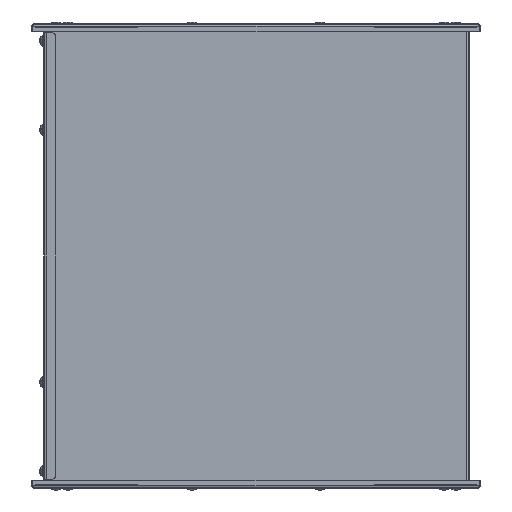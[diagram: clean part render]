
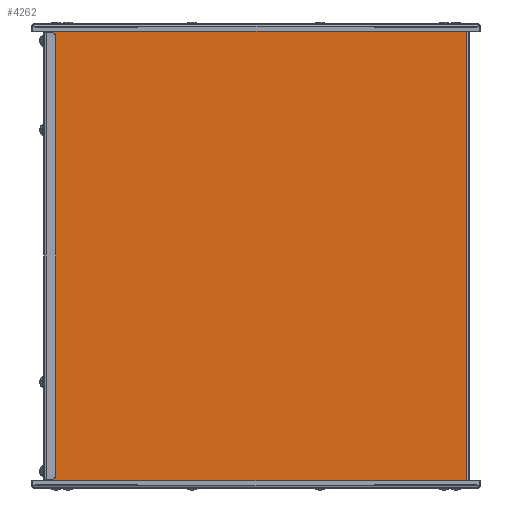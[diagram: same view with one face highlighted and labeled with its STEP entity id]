
A CAD part, left-side view. The second image highlights one B-rep face of the part: STEP entity #4262.
In plain terms, the highlighted planar face has unit normal (-1, 0, 0).
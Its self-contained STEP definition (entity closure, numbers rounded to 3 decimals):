
#1327 = PLANE ( 'NONE',  #6040 ) ;
#1328 = DIRECTION ( 'NONE',  ( 0., -1., 0. ) ) ;
#1425 = DIRECTION ( 'NONE',  ( 1., 0., 0. ) ) ;
#1432 = CARTESIAN_POINT ( 'NONE',  ( -249.8, -159.825, 175. ) ) ;
#4262 = ADVANCED_FACE ( 'NONE', ( #4953 ), #1327, .F. ) ;
#4953 = FACE_OUTER_BOUND ( 'NONE', #7608, .T. ) ;
#6040 = AXIS2_PLACEMENT_3D ( 'NONE', #1432, #1425, #1328 ) ;
#7608 = EDGE_LOOP ( 'NONE', ( #21309, #21310, #21308, #21313 ) ) ;
#10033 = LINE ( 'NONE', #15789, #10036 ) ;
#10036 = VECTOR ( 'NONE', #16144, 1000. ) ;
#10040 = LINE ( 'NONE', #16138, #10047 ) ;
#10046 = LINE ( 'NONE', #16292, #10053 ) ;
#10047 = VECTOR ( 'NONE', #15900, 1000. ) ;
#10050 = LINE ( 'NONE', #16278, #10051 ) ;
#10051 = VECTOR ( 'NONE', #16284, 1000. ) ;
#10053 = VECTOR ( 'NONE', #16298, 1000. ) ;
#11064 = VERTEX_POINT ( 'NONE', #20650 ) ;
#11093 = VERTEX_POINT ( 'NONE', #20687 ) ;
#11094 = VERTEX_POINT ( 'NONE', #20683 ) ;
#11100 = VERTEX_POINT ( 'NONE', #20692 ) ;
#15789 = CARTESIAN_POINT ( 'NONE',  ( -249.8, -158.625, 175. ) ) ;
#15900 = DIRECTION ( 'NONE',  ( 0., -1., 0. ) ) ;
#16138 = CARTESIAN_POINT ( 'NONE',  ( -249.8, 156.304, 2.8 ) ) ;
#16144 = DIRECTION ( 'NONE',  ( 0., 0., -1. ) ) ;
#16278 = CARTESIAN_POINT ( 'NONE',  ( -249.8, 155.175, 348.329 ) ) ;
#16284 = DIRECTION ( 'NONE',  ( 0., 0., -1. ) ) ;
#16292 = CARTESIAN_POINT ( 'NONE',  ( -249.8, -158.625, 347.2 ) ) ;
#16298 = DIRECTION ( 'NONE',  ( 0., 1., 0. ) ) ;
#20115 = EDGE_CURVE ( 'NONE', #11093, #11094, #10033, .T. ) ;
#20123 = EDGE_CURVE ( 'NONE', #11100, #11094, #10040, .T. ) ;
#20126 = EDGE_CURVE ( 'NONE', #11064, #11100, #10050, .T. ) ;
#20127 = EDGE_CURVE ( 'NONE', #11093, #11064, #10046, .T. ) ;
#20650 = CARTESIAN_POINT ( 'NONE',  ( -249.8, 155.175, 347.2 ) ) ;
#20683 = CARTESIAN_POINT ( 'NONE',  ( -249.8, -158.625, 2.8 ) ) ;
#20687 = CARTESIAN_POINT ( 'NONE',  ( -249.8, -158.625, 347.2 ) ) ;
#20692 = CARTESIAN_POINT ( 'NONE',  ( -249.8, 155.175, 2.8 ) ) ;
#21308 = ORIENTED_EDGE ( 'NONE', *, *, #20115, .F. ) ;
#21309 = ORIENTED_EDGE ( 'NONE', *, *, #20126, .T. ) ;
#21310 = ORIENTED_EDGE ( 'NONE', *, *, #20123, .T. ) ;
#21313 = ORIENTED_EDGE ( 'NONE', *, *, #20127, .T. ) ;
